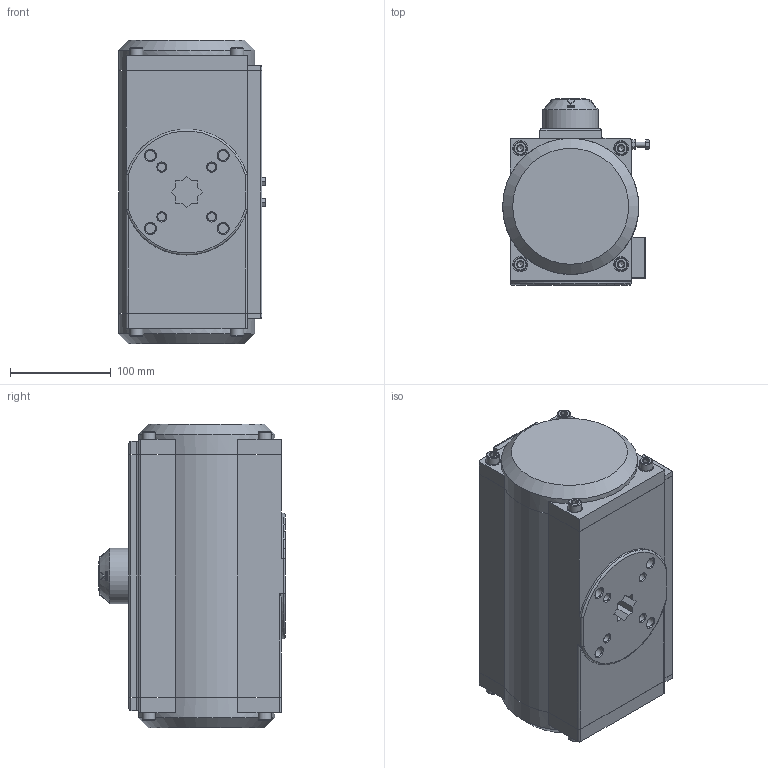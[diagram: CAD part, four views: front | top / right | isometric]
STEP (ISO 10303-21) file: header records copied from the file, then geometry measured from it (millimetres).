
FILE_DESCRIPTION(('STEP AP242'), '1');
FILE_NAME('PA-DA-130 砅槻斁瀔魤鍱 DN.ru', '2026-04-17T20:56:25', ('DN.ru'), (''), 'C3D Converter', 'C3D Toolkit', '');
FILE_SCHEMA(('AP242_MANAGED_MODEL_BASED_3D_ENGINEERING_MIM_LF { 1 0 10303 442 1 1 4 }'));
Length unit declared in the file: millimetre
Products named in the file (1): PA-DA-130
Bounding box: 145.5 x 185 x 301 mm (x, y, z)
Volume: 5539886.2 mm3; surface area: 285449.3 mm2
Topology: 1 solids, 4 shells, 1015 faces, 2643 edges, 1720 vertices
Faces by surface type: plane 453, extrusion 345, cylinder 113, cone 91, torus 13
Full cylindrical faces by diameter (mm): 4.724 x2, 5 x12, 6 x8, 8 x21, 10 x4, 13 x8, 15 x8, 55 x1, 60 x2, 135 x2
Entity records: 53927 total; most frequent: CARTESIAN_POINT 23262, ORIENTED_EDGE 4986, DIRECTION 3430, EDGE_CURVE 2493, VERTEX_POINT 1704, B_SPLINE_CURVE_WITH_KNOTS 1421, VECTOR 1420, EDGE_LOOP 1253
